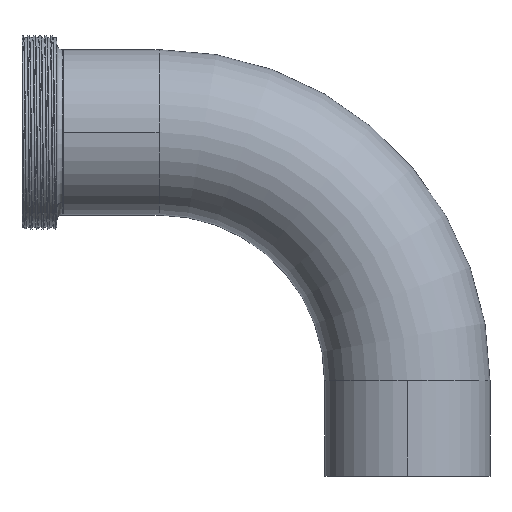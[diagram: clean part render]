
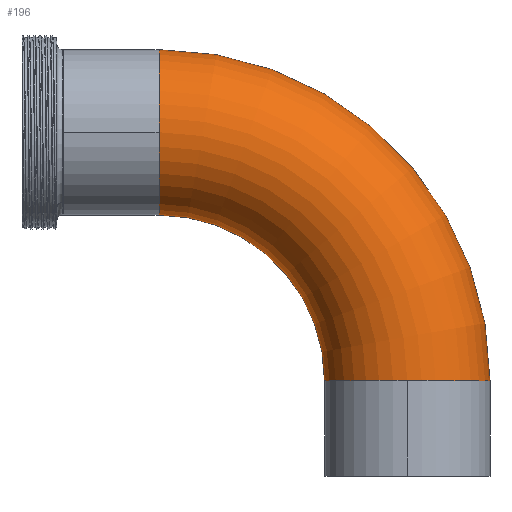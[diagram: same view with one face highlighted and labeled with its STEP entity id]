
A CAD part, top view. The second image highlights one B-rep face of the part: STEP entity #196.
In plain terms, the highlighted toroidal (fillet/blend) face has major radius 152.4 mm and minor radius 50.8 mm.
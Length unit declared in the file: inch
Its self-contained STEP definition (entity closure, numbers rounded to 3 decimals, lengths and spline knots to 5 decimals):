
#7 = EDGE_CURVE ( 'NONE', #1507, #3236, #1821, .T. ) ;
#148 = EDGE_CURVE ( 'NONE', #1754, #2485, #2336, .T. ) ;
#196 = ADVANCED_FACE ( 'NONE', ( #827 ), #2265, .T. ) ;
#303 = ORIENTED_EDGE ( 'NONE', *, *, #396, .F. ) ;
#316 = DIRECTION ( 'NONE',  ( -1., 0., 0. ) ) ;
#325 = CARTESIAN_POINT ( 'NONE',  ( -6., 8.312, 2. ) ) ;
#351 = EDGE_CURVE ( 'NONE', #2485, #1507, #1363, .T. ) ;
#396 = EDGE_CURVE ( 'NONE', #2937, #1691, #1275, .T. ) ;
#402 = CARTESIAN_POINT ( 'NONE',  ( 0., 2.312, 0. ) ) ;
#513 = EDGE_CURVE ( 'NONE', #1691, #3236, #1814, .T. ) ;
#524 = DIRECTION ( 'NONE',  ( 0., 0., 1. ) ) ;
#579 = AXIS2_PLACEMENT_3D ( 'NONE', #2999, #524, #2102 ) ;
#634 = CARTESIAN_POINT ( 'NONE',  ( -6., 8.312, 0. ) ) ;
#748 = DIRECTION ( 'NONE',  ( 0., 0., 1. ) ) ;
#827 = FACE_OUTER_BOUND ( 'NONE', #1201, .T. ) ;
#901 = DIRECTION ( 'NONE',  ( -1., 0., 0. ) ) ;
#1038 = ORIENTED_EDGE ( 'NONE', *, *, #1988, .F. ) ;
#1094 = ORIENTED_EDGE ( 'NONE', *, *, #148, .T. ) ;
#1119 = AXIS2_PLACEMENT_3D ( 'NONE', #2348, #748, #2630 ) ;
#1201 = EDGE_LOOP ( 'NONE', ( #1241, #1909, #3031, #303, #1038, #1094 ) ) ;
#1241 = ORIENTED_EDGE ( 'NONE', *, *, #351, .T. ) ;
#1275 = CIRCLE ( 'NONE', #1886, 2. ) ;
#1363 = CIRCLE ( 'NONE', #3432, 2. ) ;
#1507 = VERTEX_POINT ( 'NONE', #3239 ) ;
#1610 = AXIS2_PLACEMENT_3D ( 'NONE', #2695, #2435, #2158 ) ;
#1691 = VERTEX_POINT ( 'NONE', #325 ) ;
#1754 = VERTEX_POINT ( 'NONE', #2801 ) ;
#1814 = CIRCLE ( 'NONE', #3270, 2. ) ;
#1821 = CIRCLE ( 'NONE', #2168, 8. ) ;
#1886 = AXIS2_PLACEMENT_3D ( 'NONE', #634, #901, #1946 ) ;
#1898 = CARTESIAN_POINT ( 'NONE',  ( -6., 8.312, 0. ) ) ;
#1909 = ORIENTED_EDGE ( 'NONE', *, *, #7, .T. ) ;
#1946 = DIRECTION ( 'NONE',  ( 0., 0., 1. ) ) ;
#1986 = DIRECTION ( 'NONE',  ( 0., 1., 0. ) ) ;
#1988 = EDGE_CURVE ( 'NONE', #1754, #2937, #2119, .T. ) ;
#2102 = DIRECTION ( 'NONE',  ( 1., 0., 0. ) ) ;
#2119 = CIRCLE ( 'NONE', #1119, 4. ) ;
#2158 = DIRECTION ( 'NONE',  ( 0., 0., 1. ) ) ;
#2168 = AXIS2_PLACEMENT_3D ( 'NONE', #3125, #2601, #3341 ) ;
#2179 = DIRECTION ( 'NONE',  ( 0., 0., 1. ) ) ;
#2265 = TOROIDAL_SURFACE ( 'NONE', #579, 6., 2. ) ;
#2336 = CIRCLE ( 'NONE', #1610, 2. ) ;
#2348 = CARTESIAN_POINT ( 'NONE',  ( -6., 2.312, 0. ) ) ;
#2435 = DIRECTION ( 'NONE',  ( 0., 1., 0. ) ) ;
#2485 = VERTEX_POINT ( 'NONE', #2871 ) ;
#2601 = DIRECTION ( 'NONE',  ( 0., 0., 1. ) ) ;
#2630 = DIRECTION ( 'NONE',  ( 1., 0., 0. ) ) ;
#2695 = CARTESIAN_POINT ( 'NONE',  ( 0., 2.312, 0. ) ) ;
#2801 = CARTESIAN_POINT ( 'NONE',  ( -2., 2.312, 0. ) ) ;
#2871 = CARTESIAN_POINT ( 'NONE',  ( 0., 2.312, 2. ) ) ;
#2923 = CARTESIAN_POINT ( 'NONE',  ( -6., 6.312, 0. ) ) ;
#2937 = VERTEX_POINT ( 'NONE', #2923 ) ;
#2999 = CARTESIAN_POINT ( 'NONE',  ( -6., 2.312, 0. ) ) ;
#3031 = ORIENTED_EDGE ( 'NONE', *, *, #513, .F. ) ;
#3068 = DIRECTION ( 'NONE',  ( 0., 0., 1. ) ) ;
#3125 = CARTESIAN_POINT ( 'NONE',  ( -6., 2.312, 0. ) ) ;
#3231 = CARTESIAN_POINT ( 'NONE',  ( -6., 10.312, 0. ) ) ;
#3236 = VERTEX_POINT ( 'NONE', #3231 ) ;
#3239 = CARTESIAN_POINT ( 'NONE',  ( 2., 2.312, 0. ) ) ;
#3270 = AXIS2_PLACEMENT_3D ( 'NONE', #1898, #316, #2179 ) ;
#3341 = DIRECTION ( 'NONE',  ( 1., 0., 0. ) ) ;
#3432 = AXIS2_PLACEMENT_3D ( 'NONE', #402, #1986, #3068 ) ;
